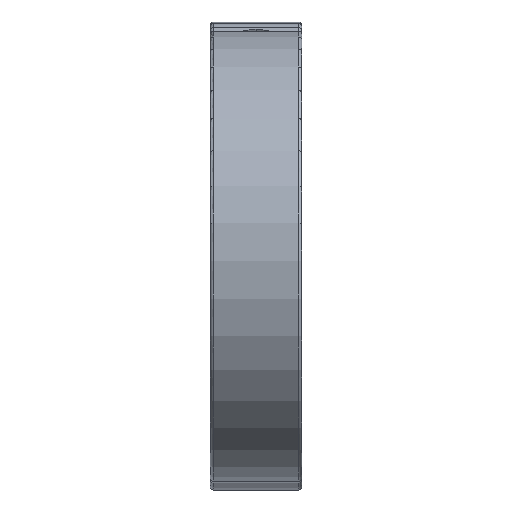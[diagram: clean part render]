
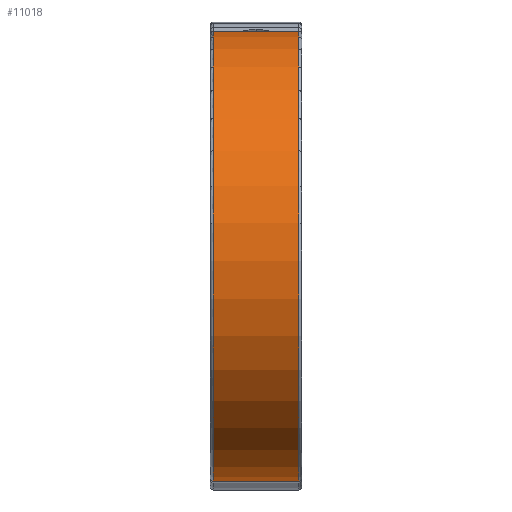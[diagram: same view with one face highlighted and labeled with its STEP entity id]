
A CAD part, left-side view. The second image highlights one B-rep face of the part: STEP entity #11018.
In plain terms, the highlighted cylindrical face has radius 73.776 mm (diameter 147.553 mm), a partial arc.
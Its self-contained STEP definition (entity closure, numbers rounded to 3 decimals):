
#230 = CARTESIAN_POINT ( 'NONE',  ( -73.22, 15., 0. ) ) ;
#421 = LINE ( 'NONE', #6359, #3135 ) ;
#1267 = FACE_OUTER_BOUND ( 'NONE', #14354, .T. ) ;
#1334 = ORIENTED_EDGE ( 'NONE', *, *, #12328, .T. ) ;
#3135 = VECTOR ( 'NONE', #9008, 1000. ) ;
#3350 = VERTEX_POINT ( 'NONE', #13295 ) ;
#3464 = AXIS2_PLACEMENT_3D ( 'NONE', #7569, #16833, #8894 ) ;
#4249 = CARTESIAN_POINT ( 'NONE',  ( -74.674, 14., -73.762 ) ) ;
#4415 = CYLINDRICAL_SURFACE ( 'NONE', #13697, 73.776 ) ;
#5064 = VERTEX_POINT ( 'NONE', #13557 ) ;
#5236 = CARTESIAN_POINT ( 'NONE',  ( -74.674, 15., -73.762 ) ) ;
#6359 = CARTESIAN_POINT ( 'NONE',  ( -78.052, 0., 73.618 ) ) ;
#6546 = ORIENTED_EDGE ( 'NONE', *, *, #9435, .T. ) ;
#6589 = DIRECTION ( 'NONE',  ( 0., 1., 0. ) ) ;
#7074 = CARTESIAN_POINT ( 'NONE',  ( -74.674, -14., -73.762 ) ) ;
#7569 = CARTESIAN_POINT ( 'NONE',  ( -73.22, 14., 0. ) ) ;
#7771 = CIRCLE ( 'NONE', #13234, 73.776 ) ;
#8198 = DIRECTION ( 'NONE',  ( 0., 0., -1. ) ) ;
#8894 = DIRECTION ( 'NONE',  ( 0., 0., 1. ) ) ;
#9008 = DIRECTION ( 'NONE',  ( 0., 1., 0. ) ) ;
#9435 = EDGE_CURVE ( 'NONE', #12123, #3350, #7771, .T. ) ;
#11018 = ADVANCED_FACE ( 'NONE', ( #1267 ), #4415, .T. ) ;
#11327 = EDGE_CURVE ( 'NONE', #14271, #12123, #11661, .T. ) ;
#11661 = LINE ( 'NONE', #5236, #14778 ) ;
#12123 = VERTEX_POINT ( 'NONE', #7074 ) ;
#12227 = ORIENTED_EDGE ( 'NONE', *, *, #11327, .T. ) ;
#12328 = EDGE_CURVE ( 'NONE', #5064, #14271, #14967, .T. ) ;
#12431 = EDGE_CURVE ( 'NONE', #3350, #5064, #421, .T. ) ;
#13234 = AXIS2_PLACEMENT_3D ( 'NONE', #14519, #6589, #15865 ) ;
#13295 = CARTESIAN_POINT ( 'NONE',  ( -78.052, -14., 73.618 ) ) ;
#13557 = CARTESIAN_POINT ( 'NONE',  ( -78.052, 14., 73.618 ) ) ;
#13697 = AXIS2_PLACEMENT_3D ( 'NONE', #230, #16146, #8198 ) ;
#14150 = ORIENTED_EDGE ( 'NONE', *, *, #12431, .T. ) ;
#14271 = VERTEX_POINT ( 'NONE', #4249 ) ;
#14354 = EDGE_LOOP ( 'NONE', ( #14150, #1334, #12227, #6546 ) ) ;
#14519 = CARTESIAN_POINT ( 'NONE',  ( -73.22, -14., 0. ) ) ;
#14778 = VECTOR ( 'NONE', #16011, 1000. ) ;
#14967 = CIRCLE ( 'NONE', #3464, 73.776 ) ;
#15865 = DIRECTION ( 'NONE',  ( 0., 0., 1. ) ) ;
#16011 = DIRECTION ( 'NONE',  ( 0., -1., 0. ) ) ;
#16146 = DIRECTION ( 'NONE',  ( 0., -1., 0. ) ) ;
#16833 = DIRECTION ( 'NONE',  ( 0., -1., 0. ) ) ;
